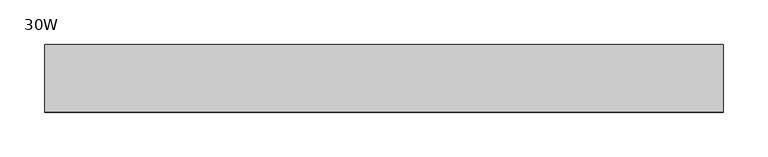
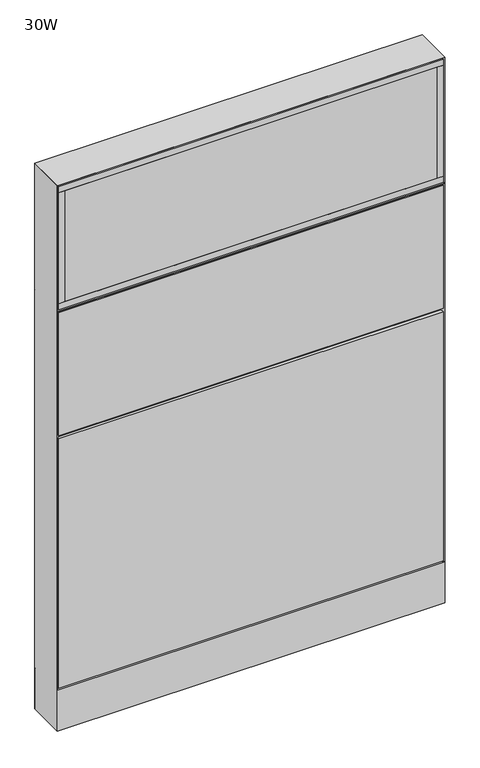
"""IFC4 building model written with IfcOpenShell, lengths in millimetres: furniture geometry, Steelcase - Montage - Frame - 45H - Enhanced Standard - Base Cavity : 30W."""

from ifc_helpers import new_model, si_unit, point, frame, frame_2d, origin, origin_with_axes, place, context, project, spatial, polyline, circle_curve, trimmed, segment, composite_curve, outline, extrude, faceted_brep, source, transform, mapped, element, save


def furniture_30w_512980de(model_context):
    return source(origin(), model_context, "Body", "SolidModel", [
        extrude(outline(polyline([(746.125, 31.7499985), (15.875, 31.7499985), (15.875, 38.1000015), (746.125, 38.1000015), (746.125, 31.7499985)])), frame((0.0, 0.0, 890.5875), z_axis=(0.0, 0.0, 1.0), x_axis=(1.0, 0.0, 0.0)), (0.0, 0.0, 1.0), 230.1875),
        extrude(outline(polyline([(746.125, -38.1000015), (15.875, -38.1000015), (15.875, -31.7500017), (746.125, -31.7500017), (746.125, -38.1000015)])), frame((0.0, 0.0, 890.5875), z_axis=(0.0, 0.0, 1.0), x_axis=(1.0, 0.0, 0.0)), (0.0, 0.0, 1.0), 230.1875),
        extrude(outline(polyline([(758.825, 38.1000015), (758.825, -38.1000015), (746.125, -38.1000015), (746.125, 38.1000015), (758.825, 38.1000015)])), frame((0.0, 0.0, 890.5875), z_axis=(0.0, 0.0, 1.0), x_axis=(1.0, 0.0, 0.0)), (0.0, 0.0, 1.0), 230.1875),
        extrude(outline(polyline([(15.875, 38.1000015), (15.875, -38.1000015), (3.175, -38.1000015), (3.175, 38.1000015), (15.875, 38.1000015)])), frame((0.0, 0.0, 890.5875), z_axis=(0.0, 0.0, 1.0), x_axis=(1.0, 0.0, 0.0)), (0.0, 0.0, 1.0), 230.1875),
        extrude(outline(polyline([(758.825, 38.1000015), (758.825, -38.1000015), (3.175, -38.1000015), (3.175, 38.1000015), (758.825, 38.1000015)])), frame((0.0, 0.0, 877.8875), z_axis=(0.0, 0.0, 1.0), x_axis=(1.0, 0.0, 0.0)), (0.0, 0.0, 1.0), 12.7),
        extrude(outline(polyline([(758.825, 38.1000015), (758.825, -38.1000015), (3.175, -38.1000015), (3.175, 38.1000015), (758.825, 38.1000015)])), frame((0.0, 0.0, 1120.775), z_axis=(0.0, 0.0, 1.0), x_axis=(1.0, 0.0, 0.0)), (0.0, 0.0, 1.0), 12.7),
        faceted_brep([(762.0, 38.1026253, 874.7124956), (755.6500047, 31.7526299, 868.3625003), (6.3499917, 31.7526299, 868.3625003), (-5.4e-06, 38.102627, 874.7124973), (755.6500047, 31.7526299, 881.0624997), (6.3499917, 31.7526299, 881.0624997)], [[[0, 1, 2, 3]], [[4, 1, 0]], [[3, 5, 4, 0]], [[5, 2, 1, 4]], [[3, 2, 5]]]),
        extrude(outline(polyline([(3.175, 31.7500194), (3.175, 38.1000194), (758.825, 38.1000194), (758.825, 31.7500194), (3.175, 31.7500194)])), frame((0.0, 0.0, 615.95), z_axis=(0.0, 0.0, 1.0), x_axis=(1.0, 0.0, 0.0)), (0.0, 0.0, 1.0), 255.5875),
        extrude(outline(polyline([(3.175, 31.7500194), (3.175, 38.1000194), (758.825, 38.1000194), (758.825, 31.7500194), (3.175, 31.7500194)])), frame((0.0, 0.0, 92.075), z_axis=(0.0, 0.0, 1.0), x_axis=(1.0, 0.0, 0.0)), (0.0, 0.0, 1.0), 517.525),
        extrude(outline(polyline([(746.125, -31.7499985), (746.125, -38.1000015), (15.875, -38.1000015), (15.875, -31.7499985), (746.125, -31.7499985)])), frame((0.0, 0.0, 890.5875), z_axis=(0.0, 0.0, 1.0), x_axis=(1.0, 0.0, 0.0)), (0.0, 0.0, 1.0), 230.1875),
        extrude(outline(polyline([(746.125, 38.1000015), (746.125, 31.7500017), (15.875, 31.7500017), (15.875, 38.1000015), (746.125, 38.1000015)])), frame((0.0, 0.0, 890.5875), z_axis=(0.0, 0.0, 1.0), x_axis=(1.0, 0.0, 0.0)), (0.0, 0.0, 1.0), 230.1875),
        extrude(outline(polyline([(758.825, -38.1000015), (746.125, -38.1000015), (746.125, 38.1000015), (758.825, 38.1000015), (758.825, -38.1000015)])), frame((0.0, 0.0, 890.5875), z_axis=(0.0, 0.0, 1.0), x_axis=(1.0, 0.0, 0.0)), (0.0, 0.0, 1.0), 230.1875),
        extrude(outline(polyline([(15.875, -38.1000015), (3.175, -38.1000015), (3.175, 38.1000015), (15.875, 38.1000015), (15.875, -38.1000015)])), frame((0.0, 0.0, 890.5875), z_axis=(0.0, 0.0, 1.0), x_axis=(1.0, 0.0, 0.0)), (0.0, 0.0, 1.0), 230.1875),
        extrude(outline(polyline([(758.825, -38.1000015), (3.175, -38.1000015), (3.175, 38.1000015), (758.825, 38.1000015), (758.825, -38.1000015)])), frame((0.0, 0.0, 877.8875), z_axis=(0.0, 0.0, 1.0), x_axis=(1.0, 0.0, 0.0)), (0.0, 0.0, 1.0), 12.7),
        extrude(outline(polyline([(758.825, -38.1000015), (3.175, -38.1000015), (3.175, 38.1000015), (758.825, 38.1000015), (758.825, -38.1000015)])), frame((0.0, 0.0, 1120.775), z_axis=(0.0, 0.0, 1.0), x_axis=(1.0, 0.0, 0.0)), (0.0, 0.0, 1.0), 12.7),
        faceted_brep([(762.0, -38.1026297, 874.7125), (0.0, -38.1026297, 874.7125), (6.3499917, -31.7526299, 868.3625003), (755.6500047, -31.7526299, 868.3625003), (755.6500047, -31.7526299, 881.0624997), (6.3499917, -31.7526299, 881.0624997)], [[[0, 1, 2, 3]], [[4, 0, 3]], [[1, 0, 4, 5]], [[5, 4, 3, 2]], [[1, 5, 2]]]),
        extrude(outline(polyline([(3.175, -31.7500194), (758.825, -31.7500194), (758.825, -38.1000194), (3.175, -38.1000194), (3.175, -31.7500194)])), frame((0.0, 0.0, 615.95), z_axis=(0.0, 0.0, 1.0), x_axis=(1.0, 0.0, 0.0)), (0.0, 0.0, 1.0), 255.5875),
        extrude(outline(polyline([(3.175, -31.7500194), (758.825, -31.7500194), (758.825, -38.1000194), (3.175, -38.1000194), (3.175, -31.7500194)])), frame((0.0, 0.0, 92.075), z_axis=(0.0, 0.0, 1.0), x_axis=(1.0, 0.0, 0.0)), (0.0, 0.0, 1.0), 517.525),
        extrude(outline(polyline([(6.350003, -31.7499985), (755.649997, -31.7499985), (762.0, -38.1000015), (0.0, -38.1000015), (6.350003, -31.7499985)])), frame((0.0, 0.0, 4.064), z_axis=(0.0, 0.0, 1.0), x_axis=(1.0, 0.0, 0.0)), (0.0, 0.0, 1.0), 84.835997),
        extrude(outline(polyline([(6.3500002, 31.7500017), (0.0, 38.1000015), (762.0, 38.1000015), (755.6500002, 31.7500017), (6.3500002, 31.7500017)])), frame((0.0, 0.0, 4.064), z_axis=(0.0, 0.0, 1.0), x_axis=(1.0, 0.0, 0.0)), (0.0, 0.0, 1.0), 84.835997),
        faceted_brep([(762.0, -38.1000015, 1136.65), (0.0, -38.1000015, 1136.65), (6.3500484, -31.749953, 1130.2999516), (755.6499516, -31.749953, 1130.2999516), (6.3500484, 31.749953, 1130.2999516), (755.6499516, 31.749953, 1130.2999516), (0.0, 38.1000015, 1136.65), (762.0, 38.1000015, 1136.65)], [[[0, 1, 2, 3]], [[3, 2, 4, 5]], [[6, 7, 5, 4]], [[1, 0, 7, 6]], [[2, 1, 6, 4]], [[0, 3, 5, 7]]]),
        extrude(outline(composite_curve([segment(trimmed(circle_curve(frame_2d((44.45, 0.0)), 15.24), [point((29.21, 0.0))], [point((59.69, 0.0))], False, "CARTESIAN"), True, "CONTINUOUS"), segment(trimmed(circle_curve(frame_2d((44.45, 0.0)), 15.24), [point((59.69, 0.0))], [point((29.21, 0.0))], False, "CARTESIAN"), True, "CONTINUOUS")], self_intersect=False)), origin_with_axes(), (0.0, 0.0, 1.0), 4.064),
        extrude(outline(composite_curve([segment(trimmed(circle_curve(frame_2d((717.55, 0.0)), 15.24), [point((702.31, 0.0))], [point((732.79, 0.0))], False, "CARTESIAN"), True, "CONTINUOUS"), segment(trimmed(circle_curve(frame_2d((717.55, 0.0)), 15.24), [point((732.79, 0.0))], [point((702.31, 0.0))], False, "CARTESIAN"), True, "CONTINUOUS")], self_intersect=False)), origin_with_axes(), (0.0, 0.0, 1.0), 4.064),
        faceted_brep([(762.0, -38.1000106, 4.064), (762.0, 38.1000015, 4.064), (762.0, 38.1000015, 1136.65), (762.0, -38.1000106, 1136.6499637), (0.0, 38.1000015, 4.064), (0.0, -38.1000015, 4.064), (0.0, -38.1000015, 1136.65), (0.0, 38.1000015, 1136.65), (755.6499879, 31.7500017, 600.202), (6.35, 31.7500017, 600.202), (6.3499998, 31.7500017, 612.902), (755.6499879, 31.7500017, 612.902), (6.35, -31.7499985, 612.902), (755.6499879, -31.7499985, 612.902), (6.350003, -31.7499985, 600.202), (755.6499879, -31.7499985, 600.202), (6.35, 31.7500015, 4.064), (6.35, -31.7500015, 4.064), (755.6499879, 31.7499894, 4.064), (755.6499879, -31.7499985, 4.064), (6.35, 31.7500015, 1130.3), (6.35, -31.7500015, 1130.3), (755.6499879, -31.7499985, 1130.2999516), (755.6499879, 31.7499895, 1130.2999516)], [[[0, 1, 2, 3]], [[4, 5, 6, 7]], [[8, 9, 10, 11]], [[11, 10, 12, 13]], [[13, 12, 14, 15]], [[9, 8, 15, 14]], [[16, 17, 5, 4]], [[18, 1, 0, 19]], [[16, 4, 7, 20, 10, 9]], [[5, 17, 14, 12, 21, 6]], [[12, 10, 20, 21]], [[17, 16, 9, 14]], [[11, 13, 22, 23]], [[18, 19, 15, 8]], [[19, 0, 3, 22, 13, 15]], [[1, 18, 8, 11, 23, 2]], [[7, 6, 21, 20]], [[3, 2, 23, 22]]]),
    ])


if __name__ == "__main__":
    model = new_model("IFC4")
    model_context = context("Model", 3, world=origin())
    ifc_project = project(units=[si_unit("LENGTHUNIT", "METRE", prefix="MILLI")], contexts=[model_context])
    site = spatial("IfcSite", under=ifc_project)
    building = spatial("IfcBuilding", under=site)
    placement = place(None, origin())
    furniture_30w_shape = furniture_30w_512980de(model_context)
    element("IfcFurniture", 1, ObjectType="Steelcase - Montage - Frame - 45H - Enhanced Standard - Base Cavity : 30W", at=placement, inside=building, context=model_context, shape_type="MappedRepresentation", body=[
        mapped(furniture_30w_shape, transform((0.0, 0.0, 0.0), x_axis=(1.0, 0.0, 0.0), y_axis=(0.0, 1.0, 0.0), z_axis=(0.0, 0.0, 1.0))),
    ])
    save(model, "model.ifc")
